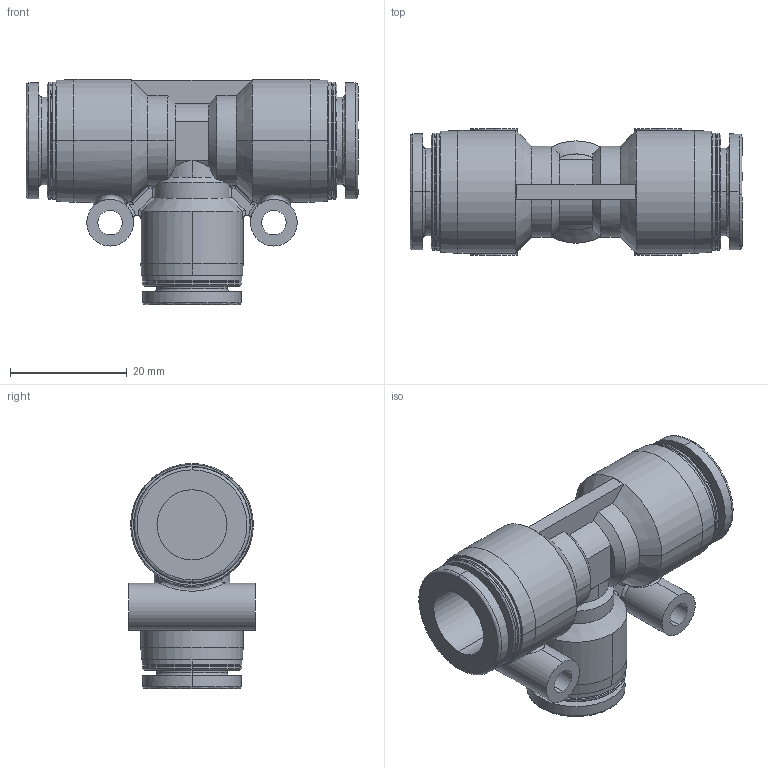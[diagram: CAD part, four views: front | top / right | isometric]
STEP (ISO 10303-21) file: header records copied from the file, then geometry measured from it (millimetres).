
FILE_DESCRIPTION (( 'STEP AP214' ), '1' );
FILE_NAME ('APEG12-10.STEP', '2019-12-05T08:33:34', ( '微软用户' ), ( '微软中国' ), 'SwSTEP 2.0', 'SolidWorks 2016', '' );
FILE_SCHEMA (( 'AUTOMOTIVE_DESIGN' ));
Length unit declared in the file: millimetre
Products named in the file (1): APEG12-10
Bounding box: 56.8 x 21.7 x 38.5 mm (x, y, z)
Volume: 15044.6 mm3; surface area: 10263.9 mm2
Topology: 1 solids, 1 shells, 185 faces, 472 edges, 301 vertices
Faces by surface type: cylinder 78, cone 45, plane 34, bspline 28
Entity records: 8909 total; most frequent: CARTESIAN_POINT 4637, ORIENTED_EDGE 944, DIRECTION 831, EDGE_CURVE 472, AXIS2_PLACEMENT_3D 345, VERTEX_POINT 301, EDGE_LOOP 201, CIRCLE 187
